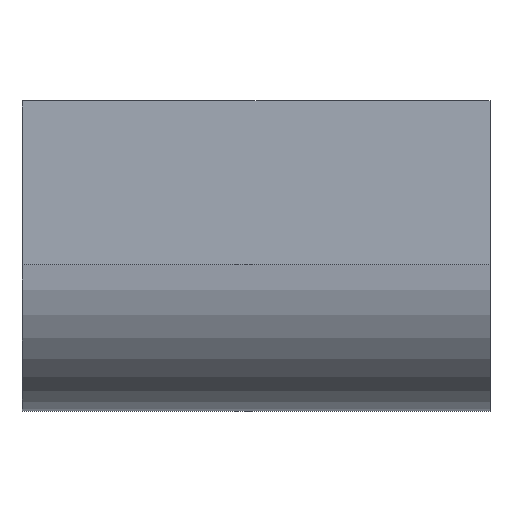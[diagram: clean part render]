
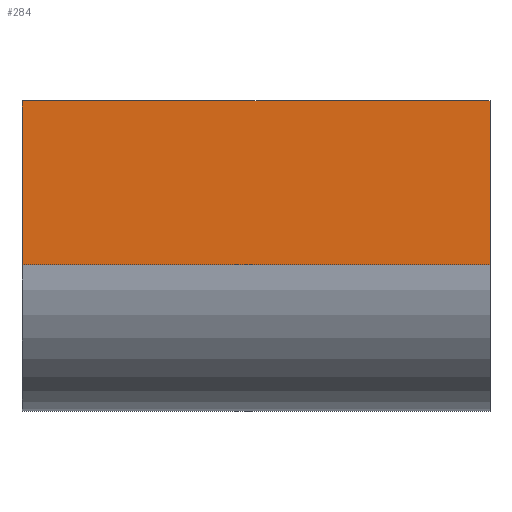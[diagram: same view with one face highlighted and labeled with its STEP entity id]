
A CAD part, front view. The second image highlights one B-rep face of the part: STEP entity #284.
In plain terms, the highlighted planar face has unit normal (0, -1, 0).
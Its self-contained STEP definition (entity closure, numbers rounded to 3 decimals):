
#48 = AXIS2_PLACEMENT_3D ( 'NONE', #1336, #307, #323 ) ;
#73 = VECTOR ( 'NONE', #869, 1000. ) ;
#116 = LINE ( 'NONE', #1395, #785 ) ;
#201 = ORIENTED_EDGE ( 'NONE', *, *, #1662, .T. ) ;
#284 = ADVANCED_FACE ( 'NONE', ( #813 ), #1605, .F. ) ;
#299 = VERTEX_POINT ( 'NONE', #998 ) ;
#300 = VECTOR ( 'NONE', #954, 1000. ) ;
#307 = DIRECTION ( 'NONE',  ( 0., 1., 0. ) ) ;
#323 = DIRECTION ( 'NONE',  ( 0., 0., 1. ) ) ;
#333 = DIRECTION ( 'NONE',  ( 0., 0., -1. ) ) ;
#351 = CARTESIAN_POINT ( 'NONE',  ( 200., -100., -140. ) ) ;
#385 = ORIENTED_EDGE ( 'NONE', *, *, #1540, .T. ) ;
#392 = CARTESIAN_POINT ( 'NONE',  ( 200., -100., -140. ) ) ;
#484 = VERTEX_POINT ( 'NONE', #1467 ) ;
#527 = EDGE_LOOP ( 'NONE', ( #201, #1057, #1249, #385 ) ) ;
#538 = VECTOR ( 'NONE', #1173, 1000. ) ;
#706 = VERTEX_POINT ( 'NONE', #1648 ) ;
#728 = EDGE_CURVE ( 'NONE', #706, #299, #752, .T. ) ;
#752 = LINE ( 'NONE', #351, #73 ) ;
#785 = VECTOR ( 'NONE', #333, 1000. ) ;
#813 = FACE_OUTER_BOUND ( 'NONE', #527, .T. ) ;
#869 = DIRECTION ( 'NONE',  ( -1., 0., 0. ) ) ;
#913 = VERTEX_POINT ( 'NONE', #1519 ) ;
#954 = DIRECTION ( 'NONE',  ( -1., 0., 0. ) ) ;
#987 = EDGE_CURVE ( 'NONE', #913, #706, #1555, .T. ) ;
#998 = CARTESIAN_POINT ( 'NONE',  ( -200., -100., -140. ) ) ;
#1057 = ORIENTED_EDGE ( 'NONE', *, *, #728, .F. ) ;
#1173 = DIRECTION ( 'NONE',  ( 0., 0., -1. ) ) ;
#1219 = LINE ( 'NONE', #1593, #300 ) ;
#1249 = ORIENTED_EDGE ( 'NONE', *, *, #987, .F. ) ;
#1336 = CARTESIAN_POINT ( 'NONE',  ( 200., -100., -140. ) ) ;
#1395 = CARTESIAN_POINT ( 'NONE',  ( -200., -100., -140. ) ) ;
#1467 = CARTESIAN_POINT ( 'NONE',  ( -200., -100., 0. ) ) ;
#1519 = CARTESIAN_POINT ( 'NONE',  ( 200., -100., 0. ) ) ;
#1540 = EDGE_CURVE ( 'NONE', #913, #484, #1219, .T. ) ;
#1555 = LINE ( 'NONE', #392, #538 ) ;
#1593 = CARTESIAN_POINT ( 'NONE',  ( 200., -100., 0. ) ) ;
#1605 = PLANE ( 'NONE',  #48 ) ;
#1648 = CARTESIAN_POINT ( 'NONE',  ( 200., -100., -140. ) ) ;
#1662 = EDGE_CURVE ( 'NONE', #484, #299, #116, .T. ) ;
